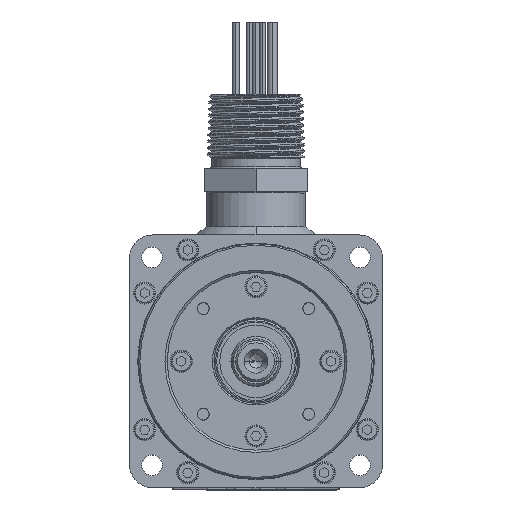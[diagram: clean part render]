
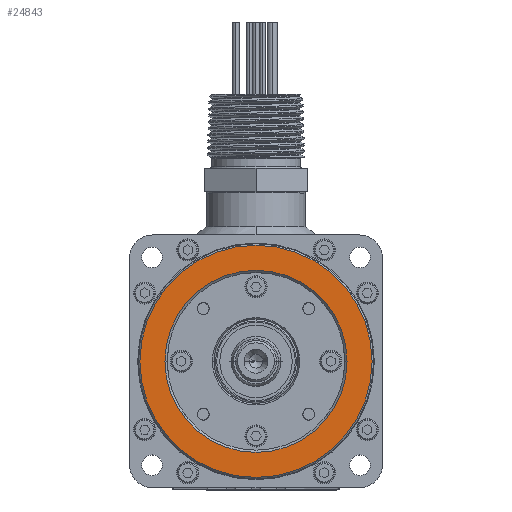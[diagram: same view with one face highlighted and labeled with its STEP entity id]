
A CAD part, top view. The second image highlights one B-rep face of the part: STEP entity #24843.
In plain terms, the highlighted planar face has unit normal (0, 0, 1).
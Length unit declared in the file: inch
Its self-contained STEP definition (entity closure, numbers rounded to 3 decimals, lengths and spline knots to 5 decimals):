
#937 = DIRECTION ( 'NONE',  ( 0., 0., -1. ) ) ;
#2706 = CARTESIAN_POINT ( 'NONE',  ( -1.2195, 0., -1.063 ) ) ;
#3596 = FACE_OUTER_BOUND ( 'NONE', #66580, .T. ) ;
#3993 = DIRECTION ( 'NONE',  ( 0., 0., 1. ) ) ;
#7166 = AXIS2_PLACEMENT_3D ( 'NONE', #30118, #42481, #35582 ) ;
#7938 = EDGE_LOOP ( 'NONE', ( #67203, #38485 ) ) ;
#11681 = CARTESIAN_POINT ( 'NONE',  ( 0., 0., -1.063 ) ) ;
#17648 = VERTEX_POINT ( 'NONE', #2706 ) ;
#19838 = EDGE_CURVE ( 'NONE', #70702, #69270, #41514, .T. ) ;
#22189 = ORIENTED_EDGE ( 'NONE', *, *, #19838, .T. ) ;
#24843 = ADVANCED_FACE ( 'NONE', ( #3596, #25733 ), #47939, .T. ) ;
#25733 = FACE_BOUND ( 'NONE', #7938, .T. ) ;
#26866 = DIRECTION ( 'NONE',  ( 1., 0., 0. ) ) ;
#28038 = DIRECTION ( 'NONE',  ( 1., 0., 0. ) ) ;
#28261 = ORIENTED_EDGE ( 'NONE', *, *, #40284, .T. ) ;
#29753 = AXIS2_PLACEMENT_3D ( 'NONE', #45631, #937, #67109 ) ;
#30118 = CARTESIAN_POINT ( 'NONE',  ( 0., 1.5748, -1.063 ) ) ;
#31414 = AXIS2_PLACEMENT_3D ( 'NONE', #11681, #50929, #28038 ) ;
#31943 = VERTEX_POINT ( 'NONE', #47371 ) ;
#35582 = DIRECTION ( 'NONE',  ( 1., 0., 0. ) ) ;
#36695 = CARTESIAN_POINT ( 'NONE',  ( 0., 0., -1.063 ) ) ;
#37808 = CARTESIAN_POINT ( 'NONE',  ( 0., 0., -1.063 ) ) ;
#38485 = ORIENTED_EDGE ( 'NONE', *, *, #46665, .T. ) ;
#40284 = EDGE_CURVE ( 'NONE', #69270, #70702, #56280, .T. ) ;
#40377 = AXIS2_PLACEMENT_3D ( 'NONE', #37808, #48351, #26866 ) ;
#41514 = CIRCLE ( 'NONE', #40377, 1.5548 ) ;
#41839 = EDGE_CURVE ( 'NONE', #31943, #17648, #61115, .T. ) ;
#42334 = AXIS2_PLACEMENT_3D ( 'NONE', #36695, #3993, #65070 ) ;
#42481 = DIRECTION ( 'NONE',  ( 0., 0., 1. ) ) ;
#45631 = CARTESIAN_POINT ( 'NONE',  ( 0., 0., -1.063 ) ) ;
#46665 = EDGE_CURVE ( 'NONE', #17648, #31943, #55799, .T. ) ;
#47371 = CARTESIAN_POINT ( 'NONE',  ( 1.2195, 0., -1.063 ) ) ;
#47939 = PLANE ( 'NONE',  #7166 ) ;
#48351 = DIRECTION ( 'NONE',  ( 0., 0., 1. ) ) ;
#50929 = DIRECTION ( 'NONE',  ( 0., 0., -1. ) ) ;
#55799 = CIRCLE ( 'NONE', #31414, 1.2195 ) ;
#56280 = CIRCLE ( 'NONE', #42334, 1.5548 ) ;
#61115 = CIRCLE ( 'NONE', #29753, 1.2195 ) ;
#65070 = DIRECTION ( 'NONE',  ( 1., 0., 0. ) ) ;
#65448 = CARTESIAN_POINT ( 'NONE',  ( -1.5548, 0., -1.063 ) ) ;
#66580 = EDGE_LOOP ( 'NONE', ( #22189, #28261 ) ) ;
#67109 = DIRECTION ( 'NONE',  ( 1., 0., 0. ) ) ;
#67203 = ORIENTED_EDGE ( 'NONE', *, *, #41839, .T. ) ;
#69270 = VERTEX_POINT ( 'NONE', #70016 ) ;
#70016 = CARTESIAN_POINT ( 'NONE',  ( 1.5548, 0., -1.063 ) ) ;
#70702 = VERTEX_POINT ( 'NONE', #65448 ) ;
